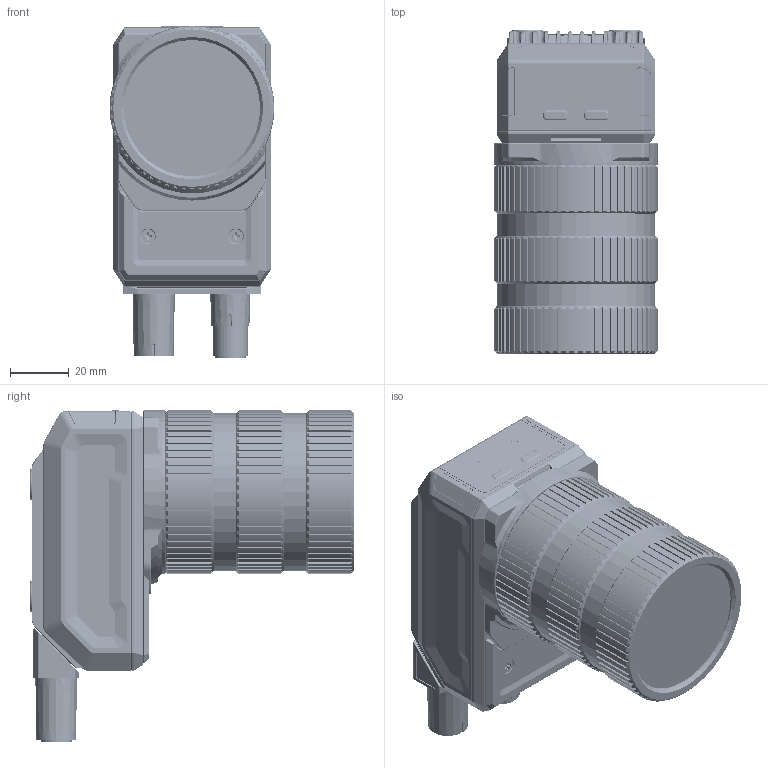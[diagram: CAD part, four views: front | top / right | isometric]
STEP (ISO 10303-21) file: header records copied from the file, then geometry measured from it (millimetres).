
FILE_DESCRIPTION((''),'2;1');
FILE_NAME('00-ID5050XM-ASSY_ASM_1_ASM','2025-08-01T11:01:15',('huguozhe'),(''),'CREO PARAMETRIC BY PTC INC, 2020044','CREO PARAMETRIC BY PTC INC, 2020044','');
FILE_SCHEMA(('AUTOMOTIVE_DESIGN { 1 0 10303 214 1 1 1 1 }'));
Products named in the file (27): DE-13-001805_1; DE-13-001804_ASM_1_ASM; DE-12-004312_1; DE-12-004313_1; DE-13-001769_1; DE-13-001818_ASM_1_ASM; DE-13-001770_1; DE-13-001771_ASM_1_ASM; DE-20-035185_ASM_1_ASM; L102-M12-ZJ12A01-ALL_1; CNT12-M12-LT08A02_ALL_1; SC-KM2X4B-NCL_1; SC-KM2X4B_1; DE-20-023136_ASM_1_ASM; DE-12-004314_1; SC-PM2_5X6-NI-GB823_1; SC-KM2_5X6B-JMF_1; DE-19-010235_1; DE-19-010237_1; DE-19-010235_ASM_1_ASM; DE-13-002775_1; DE-13-002774_ASM_1_ASM; DE-13-002981_1; DE-13-002980_ASM_1_ASM; DE-15-000090_1; DE-11-034187_1; 00-ID5050XM-ASSY_ASM_1_ASM
Assembly tree (29 placements, depth 5):
  00-ID5050XM-ASSY_ASM_1_ASM
    DE-13-001804_ASM_1_ASM
      DE-13-001805_1
    DE-12-004312_1
    DE-12-004313_1
    DE-20-023136_ASM_1_ASM
      DE-13-001818_ASM_1_ASM
        DE-13-001769_1
      DE-20-035185_ASM_1_ASM
        DE-13-001771_ASM_1_ASM
          DE-13-001770_1
      L102-M12-ZJ12A01-ALL_1
      CNT12-M12-LT08A02_ALL_1
      SC-KM2X4B-NCL_1
      SC-KM2X4B_1
    DE-12-004314_1
    SC-PM2_5X6-NI-GB823_1  x3
    SC-KM2_5X6B-JMF_1  x2
    DE-19-010235_ASM_1_ASM
      DE-19-010235_1
      DE-19-010237_1
    DE-13-002774_ASM_1_ASM
      DE-13-002775_1
    DE-13-002980_ASM_1_ASM
      DE-13-002981_1
    DE-15-000090_1
    DE-11-034187_1
Bounding box: 55.98 x 110 x 112.76 mm (x, y, z)
Volume: 183729.7 mm3; surface area: 109898 mm2
Topology: 21 solids, 108 shells, 5276 faces, 14218 edges, 9110 vertices
Faces by surface type: cylinder 1817, plane 1740, cone 736, torus 485, bspline 449, sphere 44, extrusion 3, revolution 2
Entity records: 236057 total; most frequent: CARTESIAN_POINT 82665, ORIENTED_EDGE 27224, DIRECTION 26213, EDGE_CURVE 13714, AXIS2_PLACEMENT_3D 10403, VERTEX_POINT 8885, PRESENTATION_STYLE_ASSIGNMENT 6800, STYLED_ITEM 6760
